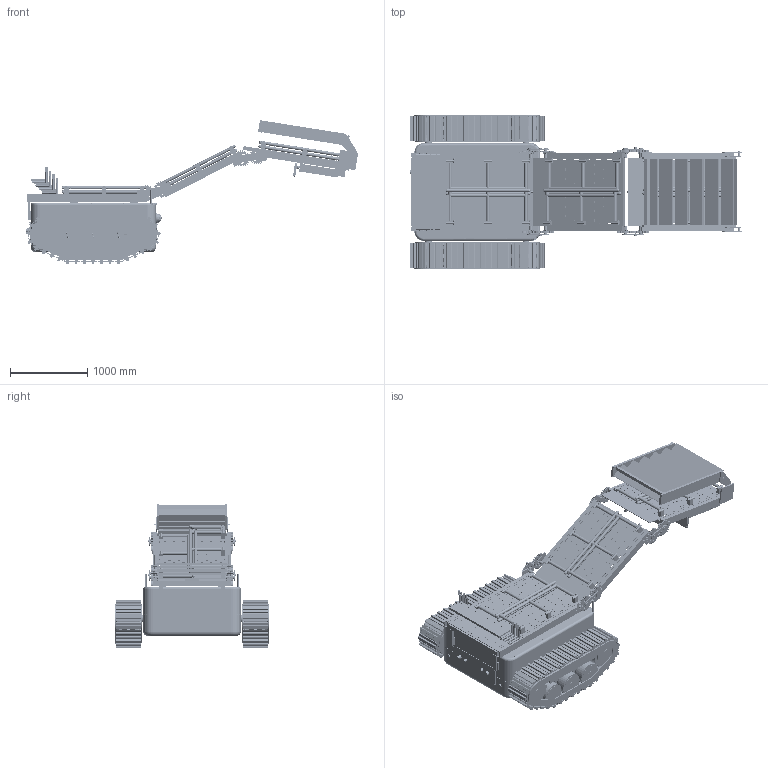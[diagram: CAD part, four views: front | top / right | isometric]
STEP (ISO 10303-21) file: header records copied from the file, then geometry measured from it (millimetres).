
FILE_DESCRIPTION(('Open CASCADE Model'),'2;1');
FILE_NAME('Open CASCADE Shape Model','2026-11-24T20:14:17',('Author'),( 'Open CASCADE'),'Open CASCADE STEP processor 7.9','Open CASCADE 7.9' ,'Unknown');
FILE_SCHEMA(('AUTOMOTIVE_DESIGN { 1 0 10303 214 1 1 1 1 }'));
Length unit declared in the file: centimetre
Products named in the file (676): AKORA_C13b_OPENING_STAGE_02; 01_MAIN_BODY; BODY_LOWER; BODY_LOWER_TUB; BODY_JOINT_FLANGE_INNER; BODY_UPPER; BODY_UPPER_TUB; BODY_JOINT_BEAD; COVER_GASKET; COVER_GASKET_EPDM_10x8; PEDESTAL_GROMMET_600_L; PEDESTAL_GROMMET_600_R; PEDESTAL_GROMMET_1380_L; PEDESTAL_GROMMET_1380_R; SERVICE_PANEL_REAR_GASKET; COVER_INTERLOCK; COVER_SEAT_RING_FEMALE; COVER_LOCKS; COVER_QUARTER_TURN_STUD_01; COVER_RECEPTACLE_01; COVER_QUARTER_TURN_STUD_02; COVER_RECEPTACLE_02; COVER_QUARTER_TURN_STUD_03; COVER_RECEPTACLE_03; COVER_QUARTER_TURN_STUD_04; COVER_RECEPTACLE_04; COVER_QUARTER_TURN_STUD_05; COVER_RECEPTACLE_05; COVER_QUARTER_TURN_STUD_06; COVER_RECEPTACLE_06; COVER_QUARTER_TURN_STUD_07; COVER_RECEPTACLE_07; COVER_QUARTER_TURN_STUD_08; COVER_RECEPTACLE_08; COVER_QUARTER_TURN_STUD_09; COVER_RECEPTACLE_09; COVER_QUARTER_TURN_STUD_10; COVER_RECEPTACLE_10; INTERNAL_FRAME; FRAME_RAIL_L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
Assembly tree (743 placements, depth 5):
  AKORA_C13b_OPENING_STAGE_02
    01_MAIN_BODY
      BODY_LOWER
        BODY_LOWER_TUB
        BODY_JOINT_FLANGE_INNER
      BODY_UPPER
        BODY_UPPER_TUB
        BODY_JOINT_BEAD
      COVER_GASKET
        COVER_GASKET_EPDM_10x8
        PEDESTAL_GROMMET_600_L
        PEDESTAL_GROMMET_600_R
        PEDESTAL_GROMMET_1380_L
        PEDESTAL_GROMMET_1380_R
        SERVICE_PANEL_REAR_GASKET
      COVER_INTERLOCK
        COVER_SEAT_RING_FEMALE
      COVER_LOCKS
        COVER_QUARTER_TURN_STUD_01
        COVER_RECEPTACLE_01
        COVER_QUARTER_TURN_STUD_02
        COVER_RECEPTACLE_02
        COVER_QUARTER_TURN_STUD_03
        COVER_RECEPTACLE_03
        COVER_QUARTER_TURN_STUD_04
        COVER_RECEPTACLE_04
        COVER_QUARTER_TURN_STUD_05
        COVER_RECEPTACLE_05
        COVER_QUARTER_TURN_STUD_06
        COVER_RECEPTACLE_06
        COVER_QUARTER_TURN_STUD_07
        COVER_RECEPTACLE_07
        COVER_QUARTER_TURN_STUD_08
        COVER_RECEPTACLE_08
        COVER_QUARTER_TURN_STUD_09
        COVER_RECEPTACLE_09
        COVER_QUARTER_TURN_STUD_10
        COVER_RECEPTACLE_10
      INTERNAL_FRAME
        FRAME_RAIL_L
        FRAME_RAIL_R
        FRAME_CROSS_1
        FRAME_CROSS_2
        FRAME_CROSS_3
        FRAME_CROSS_4
        FRAME_CROSS_5
        TRACK_MOTOR_PLATE_L
        TRACK_MOTOR_PLATE_R
      MOUNTING_BRACKETS
        FRAME_WALL_BRACKET_L_400
        FRAME_WALL_BRACKET_L_1300
        FRAME_WALL_BRACKET_R_400
        FRAME_WALL_BRACKET_R_1300
        P1_PEDESTAL_600_L
        P1_PEDESTAL_600_R
        P1_PEDESTAL_1380_L
        P1_PEDESTAL_1380_R
        REAR_LANDING_BRACKET_L
        REAR_LANDING_BRACKET_R
      SERVICE_PANELS
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Bounding box: 4292.53 x 1994 x 1857.11 mm (x, y, z)
Volume: 628183892.7 mm3; surface area: 87864523.7 mm2
Topology: 1494 solids, 1498 shells, 16526 faces, 39817 edges, 26536 vertices
Faces by surface type: plane 14101, cylinder 2385, sphere 22, torus 16, revolution 2
Full cylindrical faces by diameter (mm): 8 x18, 9 x20, 9.2 x10, 10 x150, 10.5 x4, 12 x34, 13 x4, 14 x4, 16 x36, 17 x8, 18 x4, 20 x15, 22 x12, 24 x39, 25 x16, 28 x34, 30 x64, 30.6 x40, 32 x22, 34 x36, 36 x4, 37 x54, 40 x96, 41 x8, 42 x54, 44 x11, 48 x24, 56 x2, 60 x5, 62 x4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
Entity records: 931551 total; most frequent: CARTESIAN_POINT 190398, DIRECTION 134825, LINE 95116, VECTOR 95116, ORIENTED_EDGE 69780, PCURVE 69764, DEFINITIONAL_REPRESENTATION 69764, EDGE_CURVE 34882
